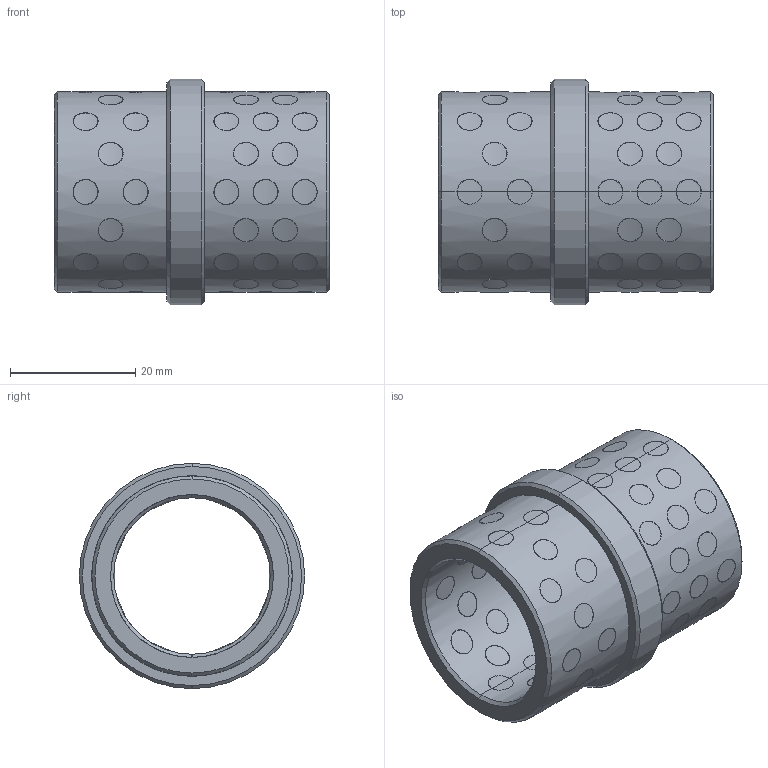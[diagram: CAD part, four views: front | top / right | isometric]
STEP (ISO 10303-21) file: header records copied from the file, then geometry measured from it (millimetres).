
FILE_DESCRIPTION(('CATIA V5 STEP Exchange'),'2;1');
FILE_NAME('C:\Users\Utente\Desktop\3D files G402\G4022526.stp','2020-04-22T08:43:26+00:00',('none'),('none'),'CATIA Version 5 Release 20 GA (IN-10)','CATIA V5 STEP AP203','none');
FILE_SCHEMA(('CONFIG_CONTROL_DESIGN'));
Products named in the file (1): G4022526
Bounding box: 44 x 36 x 36 mm (x, y, z)
Surface area: 14419.1 mm2 (no closed solid volume)
Topology: 0 solids, 428 shells, 428 faces, 1872 edges, 1872 vertices
Faces by surface type: cylinder 412, revolution 12, plane 4
Entity records: 37357 total; most frequent: CARTESIAN_POINT 24388, ORIENTED_EDGE 1872, EDGE_CURVE 1872, VERTEX_POINT 1872, DIRECTION 1523, B_SPLINE_CURVE_WITH_KNOTS 1205, VECTOR 632, LINE 632
